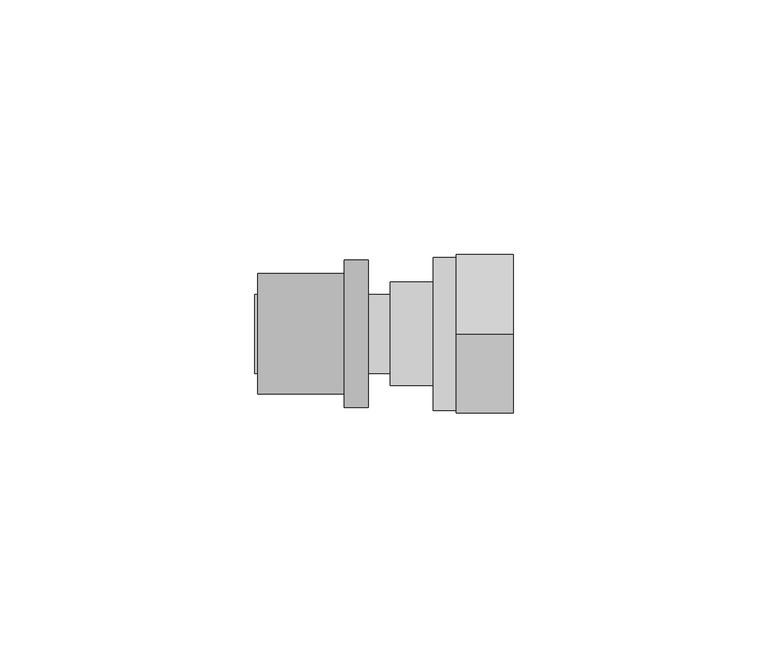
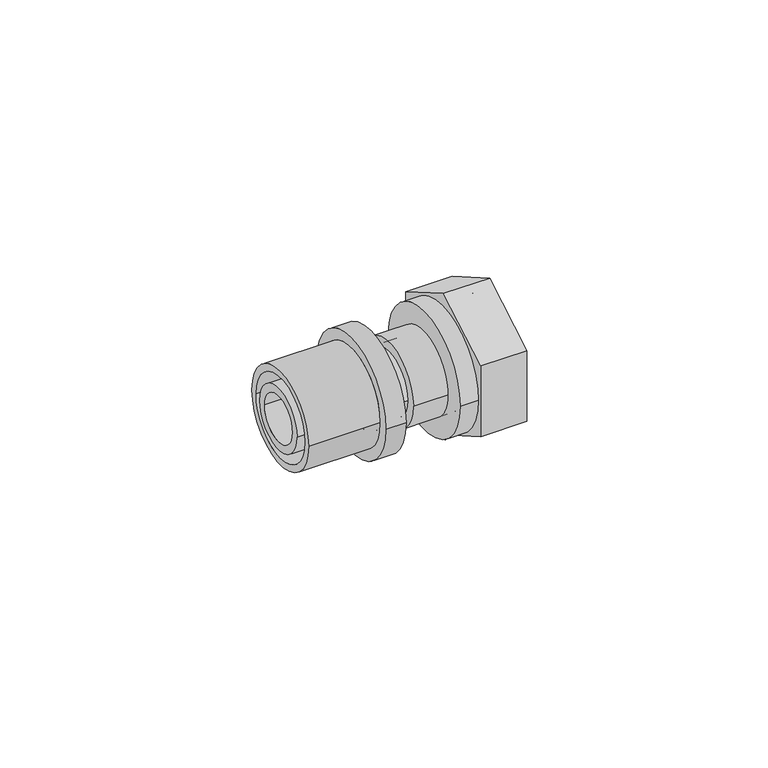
"""IFC4 building model written with IfcOpenShell, lengths in millimetres: pipe fitting geometry, FASTLOC_Adapter with union nut EX+ : FSL A union nut EX+ AT."""

from ifc_helpers import new_model, si_unit, point, frame, origin, origin_2d, place, context, project, spatial, polyline, circle_curve, trimmed, segment, composite_curve, outline, extrude, source, transform, mapped, element, save
from ifc_brep_helpers import plane_surface, cylinder_surface, revolved_surface, advanced_brep


def pipe_fitting_622d26cc(model_context):
    return source(origin(), model_context, "Body", "SolidModel", [
        advanced_brep(
        [(-9.0, -14.5, 0.0), (-9.0, 14.5, 0.0), (-4.3, 14.5, 0.0), (-4.3, -14.5, 0.0), (-26.0, -11.85, 0.0), (-26.0, 11.85, 0.0), (-9.0, 11.85, 0.0), (-9.0, -11.85, 0.0), (-4.3, -10.15, 0.0), (-4.3, 10.15, 0.0), (-26.0, 10.15, 0.0), (-26.0, -10.15, 0.0)],
        [
            (0, 1, circle_curve(frame((-9.0, 0.0, 0.0), z_axis=(1.0, 0.0, 0.0), x_axis=(0.0, 1.0, 0.0)), 14.5)),
            (1, 2),
            (2, 3, circle_curve(frame((-4.3, 0.0, 0.0), z_axis=(-1.0, 0.0, 0.0), x_axis=(0.0, 1.0, 0.0)), 14.5)),
            (3, 0),
            (4, 5, circle_curve(frame((-26.0, 0.0, 0.0), z_axis=(1.0, 0.0, 0.0), x_axis=(0.0, 1.0, 0.0)), 11.85)),
            (5, 6),
            (6, 7, circle_curve(frame((-9.0, 0.0, 0.0), z_axis=(-1.0, 0.0, 0.0), x_axis=(0.0, 1.0, 0.0)), 11.85)),
            (7, 4),
            (8, 9, circle_curve(frame((-4.3, 0.0, 0.0), z_axis=(1.0, 0.0, 0.0), x_axis=(0.0, 1.0, 0.0)), 10.15)),
            (9, 10),
            (10, 11, circle_curve(frame((-26.0, 0.0, 0.0), z_axis=(-1.0, 0.0, 0.0), x_axis=(0.0, 1.0, 0.0)), 10.15)),
            (11, 8),
            (1, 0, circle_curve(frame((-9.0, 0.0, 0.0), z_axis=(1.0, 0.0, 0.0), x_axis=(0.0, -1.0, 0.0)), 14.5)),
            (3, 2, circle_curve(frame((-4.3, 0.0, 0.0), z_axis=(-1.0, 0.0, 0.0), x_axis=(0.0, -1.0, 0.0)), 14.5)),
            (6, 7, circle_curve(frame((-9.0, 0.0, 0.0), z_axis=(1.0, 0.0, 0.0), x_axis=(0.0, -1.0, 0.0)), 11.85)),
            (5, 4, circle_curve(frame((-26.0, 0.0, 0.0), z_axis=(1.0, 0.0, 0.0), x_axis=(0.0, -1.0, 0.0)), 11.85)),
            (10, 11, circle_curve(frame((-26.0, 0.0, 0.0), z_axis=(1.0, 0.0, 0.0), x_axis=(0.0, -1.0, 0.0)), 10.15)),
            (9, 8, circle_curve(frame((-4.3, 0.0, 0.0), z_axis=(1.0, 0.0, 0.0), x_axis=(0.0, -1.0, 0.0)), 10.15)),
        ],
        [
            cylinder_surface(frame((-4.3, 0.0, 0.0), z_axis=(-1.0, 0.0, 0.0), x_axis=(0.0, 1.0, 0.0)), 14.5),
            cylinder_surface(frame((-4.3, 0.0, 0.0), z_axis=(-1.0, 0.0, 0.0), x_axis=(0.0, 1.0, 0.0)), 11.85),
            revolved_surface(polyline([(-26.0, 10.15, 0.0), (-4.3, 10.15, 0.0)]), (-4.3, 0.0, 0.0), (-1.0, 0.0, 0.0)),
            cylinder_surface(frame((-4.3, 0.0, 0.0), z_axis=(-1.0, 0.0, 0.0), x_axis=(0.0, -1.0, 0.0)), 14.5),
            plane_surface(frame((-9.0, 0.0, 0.0), z_axis=(-1.0, 0.0, 0.0), x_axis=(0.0, -1.0, 0.0))),
            cylinder_surface(frame((-4.3, 0.0, 0.0), z_axis=(-1.0, 0.0, 0.0), x_axis=(0.0, -1.0, 0.0)), 11.85),
            plane_surface(frame((-26.0, 0.0, 0.0), z_axis=(-1.0, 0.0, 0.0), x_axis=(0.0, -1.0, 0.0))),
            revolved_surface(polyline([(-26.0, -10.15, 0.0), (-4.3, -10.15, 0.0)]), (-4.3, 0.0, 0.0), (-1.0, 0.0, 0.0)),
            plane_surface(frame((-4.3, 0.0, 0.0), z_axis=(1.0, 0.0, 0.0), x_axis=(0.0, -1.0, 0.0))),
        ],
        [
            (0, [[1, 2, 3, 4]]),
            (1, [[5, 6, 7, 8]]),
            (2, [[9, 10, 11, 12]]),
            (3, [[13, -4, 14, -2]]),
            (4, [[-13, -1], [15, -7]]),
            (5, [[16, -8, -15, -6]]),
            (6, [[-16, -5], [17, -11]]),
            (7, [[18, -12, -17, -10]]),
            (8, [[-14, -3], [-18, -9]]),
        ],
    ),
        advanced_brep(
        [(-9.0, 7.75, 0.0), (-9.0, -7.75, 0.0), (-26.5, -7.75, 0.0), (-26.5, 7.75, 0.0), (-6.3, 8.8, 0.0), (-6.3, -8.8, 0.0), (-9.0, -8.8, 0.0), (-9.0, 8.8, 0.0), (0.0, 7.75, 0.0), (0.0, -7.75, 0.0), (-6.3, -7.75, 0.0), (-6.3, 7.75, 0.0), (-26.5, 5.75, 0.0), (-26.5, -5.75, 0.0), (0.0, -5.75, 0.0), (0.0, 5.75, 0.0)],
        [
            (0, 1, circle_curve(frame((-9.0, 0.0, 0.0), z_axis=(-1.0, 0.0, 0.0), x_axis=(0.0, -1.0, 0.0)), 7.75)),
            (1, 2),
            (2, 3, circle_curve(frame((-26.5, 0.0, 0.0), z_axis=(1.0, 0.0, 0.0), x_axis=(0.0, -1.0, 0.0)), 7.75)),
            (3, 0),
            (4, 5, circle_curve(frame((-6.3, 0.0, 0.0), z_axis=(-1.0, 0.0, 0.0), x_axis=(0.0, -1.0, 0.0)), 8.8)),
            (5, 6),
            (6, 7, circle_curve(frame((-9.0, 0.0, 0.0), z_axis=(1.0, 0.0, 0.0), x_axis=(0.0, -1.0, 0.0)), 8.8)),
            (7, 4),
            (8, 9, circle_curve(frame((0.0, 0.0, 0.0), z_axis=(-1.0, 0.0, 0.0), x_axis=(0.0, -1.0, 0.0)), 7.75)),
            (9, 10),
            (10, 11, circle_curve(frame((-6.3, 0.0, 0.0), z_axis=(1.0, 0.0, 0.0), x_axis=(0.0, -1.0, 0.0)), 7.75)),
            (11, 8),
            (12, 13, circle_curve(frame((-26.5, 0.0, 0.0), z_axis=(-1.0, 0.0, 0.0), x_axis=(0.0, -1.0, 0.0)), 5.75)),
            (13, 14),
            (14, 15, circle_curve(frame((0.0, 0.0, 0.0), z_axis=(1.0, 0.0, 0.0), x_axis=(0.0, -1.0, 0.0)), 5.75)),
            (15, 12),
            (2, 3, circle_curve(frame((-26.5, 0.0, 0.0), z_axis=(-1.0, 0.0, 0.0), x_axis=(0.0, 1.0, 0.0)), 7.75)),
            (12, 13, circle_curve(frame((-26.5, 0.0, 0.0), z_axis=(1.0, 0.0, 0.0), x_axis=(0.0, 1.0, 0.0)), 5.75)),
            (1, 0, circle_curve(frame((-9.0, 0.0, 0.0), z_axis=(-1.0, 0.0, 0.0), x_axis=(0.0, 1.0, 0.0)), 7.75)),
            (6, 7, circle_curve(frame((-9.0, 0.0, 0.0), z_axis=(-1.0, 0.0, 0.0), x_axis=(0.0, 1.0, 0.0)), 8.8)),
            (5, 4, circle_curve(frame((-6.3, 0.0, 0.0), z_axis=(-1.0, 0.0, 0.0), x_axis=(0.0, 1.0, 0.0)), 8.8)),
            (10, 11, circle_curve(frame((-6.3, 0.0, 0.0), z_axis=(-1.0, 0.0, 0.0), x_axis=(0.0, 1.0, 0.0)), 7.75)),
            (9, 8, circle_curve(frame((0.0, 0.0, 0.0), z_axis=(-1.0, 0.0, 0.0), x_axis=(0.0, 1.0, 0.0)), 7.75)),
            (14, 15, circle_curve(frame((0.0, 0.0, 0.0), z_axis=(-1.0, 0.0, 0.0), x_axis=(0.0, 1.0, 0.0)), 5.75)),
        ],
        [
            cylinder_surface(frame((0.0, 0.0, 0.0), z_axis=(1.0, 0.0, 0.0), x_axis=(0.0, -1.0, 0.0)), 7.75),
            cylinder_surface(frame((0.0, 0.0, 0.0), z_axis=(1.0, 0.0, 0.0), x_axis=(0.0, -1.0, 0.0)), 8.8),
            revolved_surface(polyline([(0.0, -5.75, 0.0), (-26.5, -5.75, 0.0)]), (0.0, 0.0, 0.0), (1.0, 0.0, 0.0)),
            plane_surface(frame((-26.5, 0.0, 0.0), z_axis=(-1.0, 0.0, 0.0), x_axis=(0.0, 1.0, 0.0))),
            cylinder_surface(frame((0.0, 0.0, 0.0), z_axis=(1.0, 0.0, 0.0), x_axis=(0.0, 1.0, 0.0)), 7.75),
            plane_surface(frame((-9.0, 0.0, 0.0), z_axis=(-1.0, 0.0, 0.0), x_axis=(0.0, 1.0, 0.0))),
            cylinder_surface(frame((0.0, 0.0, 0.0), z_axis=(1.0, 0.0, 0.0), x_axis=(0.0, 1.0, 0.0)), 8.8),
            plane_surface(frame((-6.3, 0.0, 0.0), z_axis=(1.0, 0.0, 0.0), x_axis=(0.0, 1.0, 0.0))),
            plane_surface(frame((0.0, 0.0, 0.0), z_axis=(1.0, 0.0, 0.0), x_axis=(0.0, 1.0, 0.0))),
            revolved_surface(polyline([(0.0, 5.75, 0.0), (-26.5, 5.75, 0.0)]), (0.0, 0.0, 0.0), (1.0, 0.0, 0.0)),
        ],
        [
            (0, [[1, 2, 3, 4]]),
            (1, [[5, 6, 7, 8]]),
            (0, [[9, 10, 11, 12]]),
            (2, [[13, 14, 15, 16]]),
            (3, [[17, -3], [18, -13]]),
            (4, [[19, -4, -17, -2]]),
            (5, [[20, -7], [-19, -1]]),
            (6, [[21, -8, -20, -6]]),
            (7, [[-21, -5], [22, -11]]),
            (4, [[23, -12, -22, -10]]),
            (8, [[-23, -9], [24, -15]]),
            (9, [[-18, -16, -24, -14]]),
        ],
    ),
        extrude(outline(polyline([(0.0, -17.8978583), (-15.5, -8.9489292), (-15.5, 8.9489292), (0.0, 17.8978583), (15.5, 8.9489292), (15.5, -8.9489292), (0.0, -17.8978583)]), holes=[composite_curve([segment(trimmed(circle_curve(origin_2d(), 12.0), [point((-12.0, 0.0))], [point((12.0, 0.0))], True, "CARTESIAN"), True, "CONTINUOUS"), segment(trimmed(circle_curve(origin_2d(), 12.0), [point((12.0, 0.0))], [point((-12.0, 0.0))], True, "CARTESIAN"), True, "CONTINUOUS")], self_intersect=False)]), frame((13.0, 0.0, 0.0), z_axis=(1.0, 0.0, 0.0), x_axis=(0.0, 1.0, 0.0)), (0.0, 0.0, 1.0), 11.1),
        advanced_brep(
        [(24.1, 15.0, 0.0), (24.1, -15.0, 0.0), (8.5, -15.0, 0.0), (8.5, 15.0, 0.0), (12.1, 12.0, 0.0), (12.1, -12.0, 0.0), (24.1, -12.0, 0.0), (24.1, 12.0, 0.0), (8.5, 8.4, 0.0), (8.5, -8.4, 0.0), (12.1, -8.4, 0.0), (12.1, 8.4, 0.0)],
        [
            (0, 1, circle_curve(frame((24.1, 0.0, 0.0), z_axis=(-1.0, 0.0, 0.0), x_axis=(0.0, -1.0, 0.0)), 15.0)),
            (1, 2),
            (2, 3, circle_curve(frame((8.5, 0.0, 0.0), z_axis=(1.0, 0.0, 0.0), x_axis=(0.0, -1.0, 0.0)), 15.0)),
            (3, 0),
            (4, 5, circle_curve(frame((12.1, 0.0, 0.0), z_axis=(-1.0, 0.0, 0.0), x_axis=(0.0, -1.0, 0.0)), 12.0)),
            (5, 6),
            (6, 7, circle_curve(frame((24.1, 0.0, 0.0), z_axis=(1.0, 0.0, 0.0), x_axis=(0.0, -1.0, 0.0)), 12.0)),
            (7, 4),
            (8, 9, circle_curve(frame((8.5, 0.0, 0.0), z_axis=(-1.0, 0.0, 0.0), x_axis=(0.0, -1.0, 0.0)), 8.4)),
            (9, 10),
            (10, 11, circle_curve(frame((12.1, 0.0, 0.0), z_axis=(1.0, 0.0, 0.0), x_axis=(0.0, -1.0, 0.0)), 8.4)),
            (11, 8),
            (1, 0, circle_curve(frame((24.1, 0.0, 0.0), z_axis=(-1.0, 0.0, 0.0), x_axis=(0.0, 1.0, 0.0)), 15.0)),
            (3, 2, circle_curve(frame((8.5, 0.0, 0.0), z_axis=(1.0, 0.0, 0.0), x_axis=(0.0, 1.0, 0.0)), 15.0)),
            (6, 7, circle_curve(frame((24.1, 0.0, 0.0), z_axis=(-1.0, 0.0, 0.0), x_axis=(0.0, 1.0, 0.0)), 12.0)),
            (5, 4, circle_curve(frame((12.1, 0.0, 0.0), z_axis=(-1.0, 0.0, 0.0), x_axis=(0.0, 1.0, 0.0)), 12.0)),
            (10, 11, circle_curve(frame((12.1, 0.0, 0.0), z_axis=(-1.0, 0.0, 0.0), x_axis=(0.0, 1.0, 0.0)), 8.4)),
            (9, 8, circle_curve(frame((8.5, 0.0, 0.0), z_axis=(-1.0, 0.0, 0.0), x_axis=(0.0, 1.0, 0.0)), 8.4)),
        ],
        [
            cylinder_surface(frame((0.0, 0.0, 0.0), z_axis=(1.0, 0.0, 0.0), x_axis=(0.0, -1.0, 0.0)), 15.0),
            revolved_surface(polyline([(24.1, -12.0, 0.0), (12.1, -12.0, 0.0)]), (0.0, 0.0, 0.0), (1.0, 0.0, 0.0)),
            revolved_surface(polyline([(12.1, -8.4, 0.0), (8.5, -8.4, 0.0)]), (0.0, 0.0, 0.0), (1.0, 0.0, 0.0)),
            cylinder_surface(frame((0.0, 0.0, 0.0), z_axis=(1.0, 0.0, 0.0), x_axis=(0.0, 1.0, 0.0)), 15.0),
            plane_surface(frame((24.1, 0.0, 0.0), z_axis=(1.0, 0.0, 0.0), x_axis=(0.0, 1.0, 0.0))),
            revolved_surface(polyline([(24.1, 12.0, 0.0), (12.1, 12.0, 0.0)]), (0.0, 0.0, 0.0), (1.0, 0.0, 0.0)),
            plane_surface(frame((12.1, 0.0, 0.0), z_axis=(1.0, 0.0, 0.0), x_axis=(0.0, 1.0, 0.0))),
            revolved_surface(polyline([(12.1, 8.4, 0.0), (8.5, 8.4, 0.0)]), (0.0, 0.0, 0.0), (1.0, 0.0, 0.0)),
            plane_surface(frame((8.5, 0.0, 0.0), z_axis=(-1.0, 0.0, 0.0), x_axis=(0.0, 1.0, 0.0))),
        ],
        [
            (0, [[1, 2, 3, 4]]),
            (1, [[5, 6, 7, 8]]),
            (2, [[9, 10, 11, 12]]),
            (3, [[13, -4, 14, -2]]),
            (4, [[-13, -1], [15, -7]]),
            (5, [[16, -8, -15, -6]]),
            (6, [[-16, -5], [17, -11]]),
            (7, [[18, -12, -17, -10]]),
            (8, [[-14, -3], [-18, -9]]),
        ],
    ),
        advanced_brep(
        [(12.0, 10.175, 0.0), (12.0, -10.175, 0.0), (0.0, -10.175, 0.0), (0.0, 10.175, 0.0), (13.95, 14.15, 0.0), (13.95, -14.15, 0.0), (12.0, -14.15, 0.0), (12.0, 14.15, 0.0), (1.4730817, 8.15, 0.0), (1.4730817, -8.15, 0.0), (13.95, -8.15, 0.0), (13.95, 8.15, 0.0), (0.0, 5.9764556, 0.0), (0.0, -5.9764556, 0.0), (1.4730817, -5.9764556, 0.0), (1.4730817, 5.9764556, 0.0)],
        [
            (0, 1, circle_curve(frame((12.0, 0.0, 0.0), z_axis=(-1.0, 0.0, 0.0), x_axis=(0.0, -1.0, 0.0)), 10.175)),
            (1, 2),
            (2, 3, circle_curve(frame((0.0, 0.0, 0.0), z_axis=(1.0, 0.0, 0.0), x_axis=(0.0, -1.0, 0.0)), 10.175)),
            (3, 0),
            (4, 5, circle_curve(frame((13.95, 0.0, 0.0), z_axis=(-1.0, 0.0, 0.0), x_axis=(0.0, -1.0, 0.0)), 14.15)),
            (5, 6),
            (6, 7, circle_curve(frame((12.0, 0.0, 0.0), z_axis=(1.0, 0.0, 0.0), x_axis=(0.0, -1.0, 0.0)), 14.15)),
            (7, 4),
            (8, 9, circle_curve(frame((1.4730817, 0.0, 0.0), z_axis=(-1.0, 0.0, 0.0), x_axis=(0.0, -1.0, 0.0)), 8.15)),
            (9, 10),
            (10, 11, circle_curve(frame((13.95, 0.0, 0.0), z_axis=(1.0, 0.0, 0.0), x_axis=(0.0, -1.0, 0.0)), 8.15)),
            (11, 8),
            (12, 13, circle_curve(frame((0.0, 0.0, 0.0), z_axis=(-1.0, 0.0, 0.0), x_axis=(0.0, -1.0, 0.0)), 5.9764556)),
            (13, 14),
            (14, 15, circle_curve(frame((1.4730817, 0.0, 0.0), z_axis=(1.0, 0.0, 0.0), x_axis=(0.0, -1.0, 0.0)), 5.9764556)),
            (15, 12),
            (2, 3, circle_curve(frame((0.0, 0.0, 0.0), z_axis=(-1.0, 0.0, 0.0), x_axis=(0.0, 1.0, 0.0)), 10.175)),
            (12, 13, circle_curve(frame((0.0, 0.0, 0.0), z_axis=(1.0, 0.0, 0.0), x_axis=(0.0, 1.0, 0.0)), 5.9764556)),
            (1, 0, circle_curve(frame((12.0, 0.0, 0.0), z_axis=(-1.0, 0.0, 0.0), x_axis=(0.0, 1.0, 0.0)), 10.175)),
            (6, 7, circle_curve(frame((12.0, 0.0, 0.0), z_axis=(-1.0, 0.0, 0.0), x_axis=(0.0, 1.0, 0.0)), 14.15)),
            (5, 4, circle_curve(frame((13.95, 0.0, 0.0), z_axis=(-1.0, 0.0, 0.0), x_axis=(0.0, 1.0, 0.0)), 14.15)),
            (10, 11, circle_curve(frame((13.95, 0.0, 0.0), z_axis=(-1.0, 0.0, 0.0), x_axis=(0.0, 1.0, 0.0)), 8.15)),
            (9, 8, circle_curve(frame((1.4730817, 0.0, 0.0), z_axis=(-1.0, 0.0, 0.0), x_axis=(0.0, 1.0, 0.0)), 8.15)),
            (14, 15, circle_curve(frame((1.4730817, 0.0, 0.0), z_axis=(-1.0, 0.0, 0.0), x_axis=(0.0, 1.0, 0.0)), 5.9764556)),
        ],
        [
            cylinder_surface(frame((0.0, 0.0, 0.0), z_axis=(1.0, 0.0, 0.0), x_axis=(0.0, -1.0, 0.0)), 10.175),
            cylinder_surface(frame((0.0, 0.0, 0.0), z_axis=(1.0, 0.0, 0.0), x_axis=(0.0, -1.0, 0.0)), 14.15),
            revolved_surface(polyline([(13.95, -8.15, 0.0), (1.4730817, -8.15, 0.0)]), (0.0, 0.0, 0.0), (1.0, 0.0, 0.0)),
            revolved_surface(polyline([(1.4730817, -5.9764556, 0.0), (0.0, -5.9764556, 0.0)]), (0.0, 0.0, 0.0), (1.0, 0.0, 0.0)),
            plane_surface(frame((0.0, 0.0, 0.0), z_axis=(-1.0, 0.0, 0.0), x_axis=(0.0, 1.0, 0.0))),
            cylinder_surface(frame((0.0, 0.0, 0.0), z_axis=(1.0, 0.0, 0.0), x_axis=(0.0, 1.0, 0.0)), 10.175),
            plane_surface(frame((12.0, 0.0, 0.0), z_axis=(-1.0, 0.0, 0.0), x_axis=(0.0, 1.0, 0.0))),
            cylinder_surface(frame((0.0, 0.0, 0.0), z_axis=(1.0, 0.0, 0.0), x_axis=(0.0, 1.0, 0.0)), 14.15),
            plane_surface(frame((13.95, 0.0, 0.0), z_axis=(1.0, 0.0, 0.0), x_axis=(0.0, 1.0, 0.0))),
            revolved_surface(polyline([(13.95, 8.15, 0.0), (1.4730817, 8.15, 0.0)]), (0.0, 0.0, 0.0), (1.0, 0.0, 0.0)),
            plane_surface(frame((1.4730817, 0.0, 0.0), z_axis=(1.0, 0.0, 0.0), x_axis=(0.0, 1.0, 0.0))),
            revolved_surface(polyline([(1.4730817, 5.9764556, 0.0), (0.0, 5.9764556, 0.0)]), (0.0, 0.0, 0.0), (1.0, 0.0, 0.0)),
        ],
        [
            (0, [[1, 2, 3, 4]]),
            (1, [[5, 6, 7, 8]]),
            (2, [[9, 10, 11, 12]]),
            (3, [[13, 14, 15, 16]]),
            (4, [[17, -3], [18, -13]]),
            (5, [[19, -4, -17, -2]]),
            (6, [[20, -7], [-19, -1]]),
            (7, [[21, -8, -20, -6]]),
            (8, [[-21, -5], [22, -11]]),
            (9, [[23, -12, -22, -10]]),
            (10, [[-23, -9], [24, -15]]),
            (11, [[-18, -16, -24, -14]]),
        ],
    ),
    ])


if __name__ == "__main__":
    model = new_model("IFC4")
    model_context = context("Model", 3, world=origin())
    ifc_project = project(units=[si_unit("LENGTHUNIT", "METRE", prefix="MILLI")], contexts=[model_context])
    site = spatial("IfcSite", under=ifc_project)
    building = spatial("IfcBuilding", under=site)
    placement = place(None, origin())
    pipe_fitting_shape = pipe_fitting_622d26cc(model_context)
    element("IfcPipeFitting", 1, ObjectType="FASTLOC_Adapter with union nut EX+ : FSL A union nut EX+ AT", at=placement, inside=building, context=model_context, shape_type="MappedRepresentation", body=[
        mapped(pipe_fitting_shape, transform((0.0, 0.0, 0.0), x_axis=(1.0, 0.0, 0.0), y_axis=(0.0, 1.0, 0.0), z_axis=(0.0, 0.0, 1.0))),
    ])
    save(model, "model.ifc")
